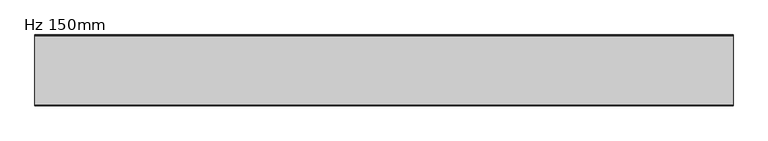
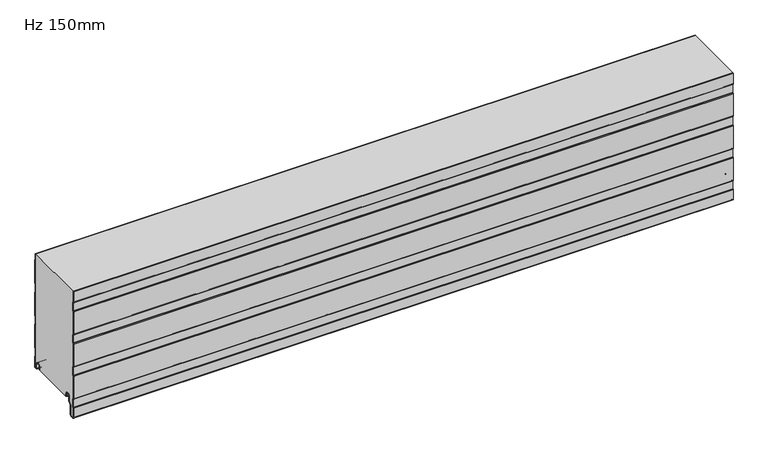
"""IFC4 building model written with IfcOpenShell, lengths in millimetres: plate geometry, KIP-MEX-KSS-1067-R19-CP-Hz-SL_SL : Hz 150mm."""

from ifc_helpers import new_model, si_unit, point, frame, frame_2d, origin, place, context, project, spatial, polyline, circle_curve, trimmed, segment, composite_curve, outline, extrude, source, transform, mapped, element, save
from ifc_brep_helpers import plane_surface, cylinder_surface, revolved_surface, advanced_brep


def hz_150mm_8d4023c2(model_context):
    return source(origin(), model_context, "Body", "SolidModel", [
        advanced_brep(
        [(-740.0, -17.0015159, 2.0313088), (-740.0, -18.0015191, 1.0313116), (-740.0, -19.0015105, 2.0313088), (-740.0, -19.0015105, 6.0315125), (-740.0, -18.0015159, 6.0315125), (-740.0, -18.0015159, 8.7237223), (-740.0, -14.7015202, 12.023718), (-740.0, -10.301529, 12.023718), (-740.0, -7.0015335, 8.7237225), (-740.0, -7.0015335, -1.6962564), (-740.0, -5.2315393, -3.4662506), (-740.0, -0.9999916, -3.4662506), (-740.0, -0.9999916, 21.034026), (-740.0, -2.2002307, 22.4196686), (-740.0, -2.2002307, 41.7948349), (-740.0, -1.0, 43.1804679), (-740.0, -1.0, 97.2338833), (-740.0, -2.2002307, 98.6195162), (-740.0, -2.2002307, 117.9946825), (-740.0, -1.0, 119.3803155), (-740.0, -1.0, 173.4337309), (-740.0, -2.2002307, 174.8193638), (-740.0, -2.2002307, 194.1945301), (-740.0, -1.0, 195.5801631), (-740.0, -1.0, 249.6335785), (-740.0, -2.2002307, 251.0192114), (-740.0, -2.2002307, 266.0), (-740.0, -1.2002307, 266.0), (-740.0, -1.2002307, 251.3920919), (-740.0, -0.3417885, 250.4010442), (-740.0, 0.0, 249.4844273), (-740.0, 0.0, 195.7293142), (-740.0, -0.3417885, 194.8126973), (-740.0, -1.2002307, 193.8216497), (-740.0, -1.2002307, 175.1922443), (-740.0, -0.3417885, 174.2011966), (-740.0, 0.0, 173.2845797), (-740.0, 0.0, 119.5294666), (-740.0, -0.3417885, 118.6128497), (-740.0, -1.2002307, 117.6218021), (-740.0, -1.2002307, 98.9923967), (-740.0, -0.3417885, 98.001349), (-740.0, 0.0, 97.0847321), (-740.0, 0.0, 43.329619), (-740.0, -0.3417885, 42.4130021), (-740.0, -1.2002307, 41.4219545), (-740.0, -1.2002307, 22.7925491), (-740.0, -0.3417885, 21.8015014), (-740.0, 0.0, 20.8847931), (-740.0, 8.4e-06, -3.0662545), (-740.0, -1.3999878, -4.4662506), (-740.0, -5.2315393, -4.4662506), (-740.0, -8.0015335, -1.6962564), (-740.0, -8.0015335, 8.7237225), (-740.0, -10.301529, 11.023718), (-740.0, -14.7015202, 11.023718), (-740.0, -17.0015159, 8.7237223), (740.0, -17.0015159, 2.0313088), (740.0, -17.0015159, 8.7237223), (740.0, -14.7015202, 11.023718), (740.0, -10.301529, 11.023718), (740.0, -8.0015335, 8.7237225), (740.0, -8.0015335, -1.6962564), (740.0, -5.2315393, -4.4662506), (740.0, -1.3999878, -4.4662506), (740.0, 8.4e-06, -3.0662545), (740.0, 8.4e-06, 20.8848845), (740.0, -0.3417885, 21.8015014), (740.0, -1.2002307, 22.7925491), (740.0, -1.2002307, 41.4219545), (740.0, -0.3417885, 42.4130021), (740.0, 0.0, 43.329619), (740.0, 0.0, 97.0847321), (740.0, -0.3417885, 98.001349), (740.0, -1.2002307, 98.9923967), (740.0, -1.2002307, 117.6218021), (740.0, -0.3417885, 118.6128497), (740.0, 0.0, 119.5294666), (740.0, 0.0, 173.2845797), (740.0, -0.3417885, 174.2011966), (740.0, -1.2002307, 175.1922443), (740.0, -1.2002307, 193.8216497), (740.0, -0.3417885, 194.8126973), (740.0, 0.0, 195.7293142), (740.0, 0.0, 249.4844273), (740.0, -0.3417885, 250.4010442), (740.0, -1.2002307, 251.3920919), (740.0, -1.2002307, 266.0), (740.0, -2.2002307, 266.0), (740.0, -2.2002307, 251.0192114), (740.0, -1.0, 249.6335785), (740.0, -1.0, 195.5801631), (740.0, -2.2002307, 194.1945301), (740.0, -2.2002307, 174.8193638), (740.0, -1.0, 173.4337309), (740.0, -1.0, 119.3803155), (740.0, -2.2002307, 117.9946825), (740.0, -2.2002307, 98.6195162), (740.0, -1.0, 97.2338833), (740.0, -1.0, 43.1804679), (740.0, -2.2002307, 41.7948349), (740.0, -2.2002307, 22.4196686), (740.0, -0.9999916, 21.034026), (740.0, -0.9999916, -3.4662506), (740.0, -5.2315393, -3.4662506), (740.0, -7.0015335, -1.6962564), (740.0, -7.0015335, 8.7237225), (740.0, -10.301529, 12.023718), (740.0, -14.7015202, 12.023718), (740.0, -18.0015159, 8.7237223), (740.0, -18.0015159, 6.0315125), (740.0, -19.0015105, 6.0315125), (740.0, -19.0015105, 2.0313088), (740.0, -18.0015192, 1.0313116)],
        [
            (0, 1, circle_curve(frame((-740.0, -18.0015132, 2.0313088), z_axis=(-1.0, 0.0, 0.0), x_axis=(0.0, 0.0, 1.0)), 0.9999973)),
            (1, 2, circle_curve(frame((-740.0, -18.0015133, 2.0313088), z_axis=(-1.0, 0.0, 0.0), x_axis=(0.0, 0.0, 1.0)), 0.9999972)),
            (2, 3),
            (3, 4),
            (4, 5),
            (5, 6, circle_curve(frame((-740.0, -14.7015202, 8.7237223), z_axis=(-1.0, 0.0, 0.0), x_axis=(0.0, 0.0, 1.0)), 3.2999957)),
            (6, 7),
            (7, 8, circle_curve(frame((-740.0, -10.301529, 8.7237225), z_axis=(-1.0, 0.0, 0.0), x_axis=(0.0, 0.0, 1.0)), 3.2999955)),
            (8, 9),
            (9, 10, circle_curve(frame((-740.0, -5.2315393, -1.6962564), z_axis=(1.0, 0.0, 0.0), x_axis=(0.0, 0.0, 1.0)), 1.7699942)),
            (10, 11),
            (11, 12),
            (12, 13),
            (13, 14),
            (14, 15),
            (15, 16),
            (16, 17),
            (17, 18),
            (18, 19),
            (19, 20),
            (20, 21),
            (21, 22),
            (22, 23),
            (23, 24),
            (24, 25),
            (25, 26),
            (26, 27),
            (27, 28),
            (28, 29),
            (29, 30, circle_curve(frame((-740.0, -1.3999972, 249.4844273), z_axis=(-1.0, 0.0, 0.0), x_axis=(0.0, 0.0, 1.0)), 1.3999972)),
            (30, 31),
            (31, 32, circle_curve(frame((-740.0, -1.3999972, 195.7293142), z_axis=(-1.0, 0.0, 0.0), x_axis=(0.0, 0.0, 1.0)), 1.3999972)),
            (32, 33),
            (33, 34),
            (34, 35),
            (35, 36, circle_curve(frame((-740.0, -1.3999972, 173.2845797), z_axis=(-1.0, 0.0, 0.0), x_axis=(0.0, 0.0, 1.0)), 1.3999972)),
            (36, 37),
            (37, 38, circle_curve(frame((-740.0, -1.3999972, 119.5294666), z_axis=(-1.0, 0.0, 0.0), x_axis=(0.0, 0.0, 1.0)), 1.3999972)),
            (38, 39),
            (39, 40),
            (40, 41),
            (41, 42, circle_curve(frame((-740.0, -1.3999972, 97.0847321), z_axis=(-1.0, 0.0, 0.0), x_axis=(0.0, 0.0, 1.0)), 1.3999972)),
            (42, 43),
            (43, 44, circle_curve(frame((-740.0, -1.3999972, 43.329619), z_axis=(-1.0, 0.0, 0.0), x_axis=(0.0, 0.0, 1.0)), 1.3999972)),
            (44, 45),
            (45, 46),
            (46, 47),
            (47, 48, circle_curve(frame((-740.0, -1.3999972, 20.8848845), z_axis=(-1.0, 0.0, 0.0), x_axis=(0.0, 0.0, 1.0)), 1.3999972)),
            (48, 49),
            (49, 50, circle_curve(frame((-740.0, -1.3999878, -3.0662545), z_axis=(-1.0, 0.0, 0.0), x_axis=(0.0, 0.0, 1.0)), 1.3999962)),
            (50, 51),
            (51, 52, circle_curve(frame((-740.0, -5.2315393, -1.6962564), z_axis=(-1.0, 0.0, 0.0), x_axis=(0.0, 0.0, 1.0)), 2.7699942)),
            (52, 53),
            (53, 54, circle_curve(frame((-740.0, -10.301529, 8.7237225), z_axis=(1.0, 0.0, 0.0), x_axis=(0.0, 0.0, 1.0)), 2.2999955)),
            (54, 55),
            (55, 56, circle_curve(frame((-740.0, -14.7015202, 8.7237223), z_axis=(1.0, 0.0, 0.0), x_axis=(0.0, 0.0, 1.0)), 2.2999957)),
            (56, 0),
            (57, 58),
            (58, 59, circle_curve(frame((740.0, -14.7015202, 8.7237223), z_axis=(-1.0, 0.0, 0.0), x_axis=(0.0, 0.0, 1.0)), 2.2999957)),
            (59, 60),
            (60, 61, circle_curve(frame((740.0, -10.301529, 8.7237225), z_axis=(-1.0, 0.0, 0.0), x_axis=(0.0, 0.0, 1.0)), 2.2999955)),
            (61, 62),
            (62, 63, circle_curve(frame((740.0, -5.2315393, -1.6962564), z_axis=(1.0, 0.0, 0.0), x_axis=(0.0, 0.0, 1.0)), 2.7699942)),
            (63, 64),
            (64, 65, circle_curve(frame((740.0, -1.3999878, -3.0662545), z_axis=(1.0, 0.0, 0.0), x_axis=(0.0, 0.0, 1.0)), 1.3999962)),
            (65, 66),
            (66, 67, circle_curve(frame((740.0, -1.3999972, 20.8848845), z_axis=(1.0, 0.0, 0.0), x_axis=(0.0, 0.0, 1.0)), 1.3999972)),
            (67, 68),
            (68, 69),
            (69, 70),
            (70, 71, circle_curve(frame((740.0, -1.3999972, 43.329619), z_axis=(1.0, 0.0, 0.0), x_axis=(0.0, 0.0, 1.0)), 1.3999972)),
            (71, 72),
            (72, 73, circle_curve(frame((740.0, -1.3999972, 97.0847321), z_axis=(1.0, 0.0, 0.0), x_axis=(0.0, 0.0, 1.0)), 1.3999972)),
            (73, 74),
            (74, 75),
            (75, 76),
            (76, 77, circle_curve(frame((740.0, -1.3999972, 119.5294666), z_axis=(1.0, 0.0, 0.0), x_axis=(0.0, 0.0, 1.0)), 1.3999972)),
            (77, 78),
            (78, 79, circle_curve(frame((740.0, -1.3999972, 173.2845797), z_axis=(1.0, 0.0, 0.0), x_axis=(0.0, 0.0, 1.0)), 1.3999972)),
            (79, 80),
            (80, 81),
            (81, 82),
            (82, 83, circle_curve(frame((740.0, -1.3999972, 195.7293142), z_axis=(1.0, 0.0, 0.0), x_axis=(0.0, 0.0, 1.0)), 1.3999972)),
            (83, 84),
            (84, 85, circle_curve(frame((740.0, -1.3999972, 249.4844273), z_axis=(1.0, 0.0, 0.0), x_axis=(0.0, 0.0, 1.0)), 1.3999972)),
            (85, 86),
            (86, 87),
            (87, 88),
            (88, 89),
            (89, 90),
            (90, 91),
            (91, 92),
            (92, 93),
            (93, 94),
            (94, 95),
            (95, 96),
            (96, 97),
            (97, 98),
            (98, 99),
            (99, 100),
            (100, 101),
            (101, 102),
            (102, 103),
            (103, 104),
            (104, 105, circle_curve(frame((740.0, -5.2315393, -1.6962564), z_axis=(-1.0, 0.0, 0.0), x_axis=(0.0, 0.0, 1.0)), 1.7699942)),
            (105, 106),
            (106, 107, circle_curve(frame((740.0, -10.301529, 8.7237225), z_axis=(1.0, 0.0, 0.0), x_axis=(0.0, 0.0, 1.0)), 3.2999955)),
            (107, 108),
            (108, 109, circle_curve(frame((740.0, -14.7015202, 8.7237223), z_axis=(1.0, 0.0, 0.0), x_axis=(0.0, 0.0, 1.0)), 3.2999957)),
            (109, 110),
            (110, 111),
            (111, 112),
            (112, 113, circle_curve(frame((740.0, -18.0015133, 2.0313088), z_axis=(1.0, 0.0, 0.0), x_axis=(0.0, 0.0, 1.0)), 0.9999972)),
            (113, 57, circle_curve(frame((740.0, -18.0015132, 2.0313088), z_axis=(1.0, 0.0, 0.0), x_axis=(0.0, 0.0, 1.0)), 0.9999973)),
            (56, 58),
            (57, 0),
            (55, 59),
            (54, 60),
            (53, 61),
            (52, 62),
            (51, 63),
            (50, 64),
            (49, 65),
            (48, 66),
            (47, 67),
            (46, 68),
            (45, 69),
            (44, 70),
            (43, 71),
            (42, 72),
            (41, 73),
            (40, 74),
            (39, 75),
            (38, 76),
            (37, 77),
            (36, 78),
            (35, 79),
            (34, 80),
            (33, 81),
            (32, 82),
            (31, 83),
            (30, 84),
            (29, 85),
            (28, 86),
            (27, 87),
            (88, 26),
            (25, 89),
            (24, 90),
            (23, 91),
            (22, 92),
            (21, 93),
            (20, 94),
            (19, 95),
            (18, 96),
            (17, 97),
            (16, 98),
            (15, 99),
            (14, 100),
            (13, 101),
            (12, 102),
            (11, 103),
            (10, 104),
            (9, 105),
            (8, 106),
            (7, 107),
            (6, 108),
            (5, 109),
            (4, 110),
            (3, 111),
            (2, 112),
            (1, 113),
        ],
        [
            plane_surface(frame((-740.0, 0.0, 533.4), z_axis=(-1.0, 0.0, 0.0), x_axis=(0.0, 1.0, 0.0))),
            plane_surface(frame((740.0, 0.0, 533.4), z_axis=(1.0, 0.0, 0.0), x_axis=(0.0, 1.0, 0.0))),
            plane_surface(frame((-740.0, -17.0015159, 2.0313088), z_axis=(0.0, 1.0, 0.0), x_axis=(1.0, 0.0, 0.0))),
            revolved_surface(polyline([(740.0, -14.7015202, 11.023718), (-740.0, -14.7015202, 11.023718)]), (-740.0, -14.7015202, 8.7237223), (1.0, 0.0, 0.0)),
            plane_surface(frame((-740.0, -14.7015202, 11.023718), z_axis=(0.0, 0.0, -1.0), x_axis=(1.0, 0.0, 0.0))),
            revolved_surface(polyline([(740.0, -10.301529, 11.023717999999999), (-740.0, -10.301529, 11.023717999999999)]), (-740.0, -10.301529, 8.7237225), (1.0, 0.0, 0.0)),
            plane_surface(frame((-740.0, -8.0015335, 8.7237225), z_axis=(0.0, -1.0, 0.0), x_axis=(1.0, 0.0, 0.0))),
            cylinder_surface(frame((-740.0, -5.2315393, -1.6962564), z_axis=(-1.0, 0.0, 0.0), x_axis=(0.0, 0.0, 1.0)), 2.7699942),
            plane_surface(frame((-740.0, -5.2315393, -4.4662506), z_axis=(0.0, 0.0, -1.0), x_axis=(1.0, 0.0, 0.0))),
            cylinder_surface(frame((-740.0, -1.3999878, -3.0662545), z_axis=(-1.0, 0.0, 0.0), x_axis=(0.0, 0.0, 1.0)), 1.3999962),
            plane_surface(frame((-740.0, 8.4e-06, -3.0662545), z_axis=(0.0, 1.0, 0.0), x_axis=(1.0, 0.0, 0.0))),
            cylinder_surface(frame((-740.0, -1.3999972, 20.8848845), z_axis=(-1.0, 0.0, 0.0), x_axis=(0.0, 0.0, 1.0)), 1.3999972),
            plane_surface(frame((-740.0, -0.3417885, 21.8015014), z_axis=(0.0, 0.755864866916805, 0.6547276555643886), x_axis=(1.0, 0.0, 0.0))),
            plane_surface(frame((-740.0, -1.2002307, 32.1072518), z_axis=(0.0, 1.0, 0.0), x_axis=(1.0, 0.0, 0.0))),
            plane_surface(frame((-740.0, -1.2002307, 41.4219545), z_axis=(0.0, 0.755864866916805, -0.6547276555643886), x_axis=(1.0, 0.0, 0.0))),
            cylinder_surface(frame((-740.0, -1.3999972, 43.329619), z_axis=(-1.0, 0.0, 0.0), x_axis=(0.0, 0.0, 1.0)), 1.3999972),
            plane_surface(frame((-740.0, 0.0, 43.329619), z_axis=(0.0, 1.0, 0.0), x_axis=(1.0, 0.0, 0.0))),
            cylinder_surface(frame((-740.0, -1.3999972, 97.0847321), z_axis=(-1.0, 0.0, 0.0), x_axis=(0.0, 0.0, 1.0)), 1.3999972),
            plane_surface(frame((-740.0, -0.3417885, 98.001349), z_axis=(0.0, 0.755864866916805, 0.6547276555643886), x_axis=(1.0, 0.0, 0.0))),
            plane_surface(frame((-740.0, -1.2002307, 108.3070994), z_axis=(0.0, 1.0, 0.0), x_axis=(1.0, 0.0, 0.0))),
            plane_surface(frame((-740.0, -1.2002307, 117.6218021), z_axis=(0.0, 0.755864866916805, -0.6547276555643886), x_axis=(1.0, 0.0, 0.0))),
            cylinder_surface(frame((-740.0, -1.3999972, 119.5294666), z_axis=(-1.0, 0.0, 0.0), x_axis=(0.0, 0.0, 1.0)), 1.3999972),
            plane_surface(frame((-740.0, 0.0, 119.5294666), z_axis=(0.0, 1.0, 0.0), x_axis=(1.0, 0.0, 0.0))),
            cylinder_surface(frame((-740.0, -1.3999972, 173.2845797), z_axis=(-1.0, 0.0, 0.0), x_axis=(0.0, 0.0, 1.0)), 1.3999972),
            plane_surface(frame((-740.0, -0.3417885, 174.2011966), z_axis=(0.0, 0.755864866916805, 0.6547276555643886), x_axis=(1.0, 0.0, 0.0))),
            plane_surface(frame((-740.0, -1.2002307, 184.506947), z_axis=(0.0, 1.0, 0.0), x_axis=(1.0, 0.0, 0.0))),
            plane_surface(frame((-740.0, -1.2002307, 193.8216497), z_axis=(0.0, 0.755864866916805, -0.6547276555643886), x_axis=(1.0, 0.0, 0.0))),
            cylinder_surface(frame((-740.0, -1.3999972, 195.7293142), z_axis=(-1.0, 0.0, 0.0), x_axis=(0.0, 0.0, 1.0)), 1.3999972),
            plane_surface(frame((-740.0, 0.0, 195.7293142), z_axis=(0.0, 1.0, 0.0), x_axis=(1.0, 0.0, 0.0))),
            cylinder_surface(frame((-740.0, -1.3999972, 249.4844273), z_axis=(-1.0, 0.0, 0.0), x_axis=(0.0, 0.0, 1.0)), 1.3999972),
            plane_surface(frame((-740.0, -0.3417885, 250.4010442), z_axis=(0.0, 0.755864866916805, 0.6547276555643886), x_axis=(1.0, 0.0, 0.0))),
            plane_surface(frame((-740.0, -1.2002307, 260.7067946), z_axis=(0.0, 1.0, 0.0), x_axis=(1.0, 0.0, 0.0))),
            plane_surface(frame((-740.0, -2.2002307, 270.3943777), z_axis=(0.0, -1.0, 0.0), x_axis=(1.0, 0.0, 0.0))),
            plane_surface(frame((-740.0, -2.2002307, 251.0192114), z_axis=(0.0, -0.755864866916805, -0.6547276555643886), x_axis=(1.0, 0.0, 0.0))),
            plane_surface(frame((-740.0, -1.0, 249.6335785), z_axis=(0.0, -1.0, 0.0), x_axis=(1.0, 0.0, 0.0))),
            plane_surface(frame((-740.0, -1.0, 195.5801631), z_axis=(0.0, -0.755864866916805, 0.6547276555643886), x_axis=(1.0, 0.0, 0.0))),
            plane_surface(frame((-740.0, -2.2002307, 194.1945301), z_axis=(0.0, -1.0, 0.0), x_axis=(1.0, 0.0, 0.0))),
            plane_surface(frame((-740.0, -2.2002307, 174.8193638), z_axis=(0.0, -0.755864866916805, -0.6547276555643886), x_axis=(1.0, 0.0, 0.0))),
            plane_surface(frame((-740.0, -1.0, 173.4337309), z_axis=(0.0, -1.0, 0.0), x_axis=(1.0, 0.0, 0.0))),
            plane_surface(frame((-740.0, -1.0, 119.3803155), z_axis=(0.0, -0.755864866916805, 0.6547276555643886), x_axis=(1.0, 0.0, 0.0))),
            plane_surface(frame((-740.0, -2.2002307, 117.9946825), z_axis=(0.0, -1.0, 0.0), x_axis=(1.0, 0.0, 0.0))),
            plane_surface(frame((-740.0, -2.2002307, 98.6195162), z_axis=(0.0, -0.755864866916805, -0.6547276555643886), x_axis=(1.0, 0.0, 0.0))),
            plane_surface(frame((-740.0, -1.0, 97.2338833), z_axis=(0.0, -1.0, 0.0), x_axis=(1.0, 0.0, 0.0))),
            plane_surface(frame((-740.0, -1.0, 43.1804679), z_axis=(0.0, -0.755864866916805, 0.6547276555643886), x_axis=(1.0, 0.0, 0.0))),
            plane_surface(frame((-740.0, -2.2002307, 41.7948349), z_axis=(0.0, -1.0, 0.0), x_axis=(1.0, 0.0, 0.0))),
            plane_surface(frame((-740.0, -2.2002307, 22.4196686), z_axis=(0.0, -0.755864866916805, -0.6547276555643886), x_axis=(1.0, 0.0, 0.0))),
            plane_surface(frame((-740.0, -0.9999916, 21.034026), z_axis=(0.0, -1.0, 0.0), x_axis=(1.0, 0.0, 0.0))),
            plane_surface(frame((-740.0, -0.9999916, -3.4662506), z_axis=(0.0, 0.0, 1.0), x_axis=(1.0, 0.0, 0.0))),
            revolved_surface(polyline([(740.0, -5.2315393, 0.07373779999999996), (-740.0, -5.2315393, 0.07373779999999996)]), (-740.0, -5.2315393, -1.6962564), (1.0, 0.0, 0.0)),
            plane_surface(frame((-740.0, -7.0015335, -1.6962564), z_axis=(0.0, 1.0, 0.0), x_axis=(1.0, 0.0, 0.0))),
            cylinder_surface(frame((-740.0, -10.301529, 8.7237225), z_axis=(-1.0, 0.0, 0.0), x_axis=(0.0, 0.0, 1.0)), 3.2999955),
            plane_surface(frame((-740.0, -10.301529, 12.023718), z_axis=(0.0, 0.0, 1.0), x_axis=(1.0, 0.0, 0.0))),
            cylinder_surface(frame((-740.0, -14.7015202, 8.7237223), z_axis=(-1.0, 0.0, 0.0), x_axis=(0.0, 0.0, 1.0)), 3.2999957),
            plane_surface(frame((-740.0, -18.0015159, 8.7237223), z_axis=(0.0, -1.0, 0.0), x_axis=(1.0, 0.0, 0.0))),
            plane_surface(frame((-740.0, -18.0015159, 6.0315125), z_axis=(0.0, 0.0, 1.0), x_axis=(1.0, 0.0, 0.0))),
            plane_surface(frame((-740.0, -19.0015105, 6.0315125), z_axis=(0.0, -1.0, 0.0), x_axis=(1.0, 0.0, 0.0))),
            cylinder_surface(frame((-740.0, -18.0015133, 2.0313088), z_axis=(-1.0, 0.0, 0.0), x_axis=(0.0, 0.0, 1.0)), 0.9999972),
            cylinder_surface(frame((-740.0, -18.0015132, 2.0313088), z_axis=(-1.0, 0.0, 0.0), x_axis=(0.0, 0.0, 1.0)), 0.9999973),
            plane_surface(frame((740.0, 10.0, 266.0), z_axis=(0.0, 0.0, 1.0), x_axis=(-1.0, 0.0, 0.0))),
        ],
        [
            (0, [[1, 2, 3, 4, 5, 6, 7, 8, 9, 10, 11, 12, 13, 14, 15, 16, 17, 18, 19, 20, 21, 22, 23, 24, 25, 26, 27, 28, 29, 30, 31, 32, 33, 34, 35, 36, 37, 38, 39, 40, 41, 42, 43, 44, 45, 46, 47, 48, 49, 50, 51, 52, 53, 54, 55, 56, 57]]),
            (1, [[58, 59, 60, 61, 62, 63, 64, 65, 66, 67, 68, 69, 70, 71, 72, 73, 74, 75, 76, 77, 78, 79, 80, 81, 82, 83, 84, 85, 86, 87, 88, 89, 90, 91, 92, 93, 94, 95, 96, 97, 98, 99, 100, 101, 102, 103, 104, 105, 106, 107, 108, 109, 110, 111, 112, 113, 114]]),
            (2, [[115, -58, 116, -57]]),
            (3, [[117, -59, -115, -56]]),
            (4, [[118, -60, -117, -55]]),
            (5, [[119, -61, -118, -54]]),
            (6, [[120, -62, -119, -53]]),
            (7, [[121, -63, -120, -52]]),
            (8, [[122, -64, -121, -51]]),
            (9, [[123, -65, -122, -50]]),
            (10, [[124, -66, -123, -49]]),
            (11, [[125, -67, -124, -48]]),
            (12, [[126, -68, -125, -47]]),
            (13, [[127, -69, -126, -46]]),
            (14, [[128, -70, -127, -45]]),
            (15, [[129, -71, -128, -44]]),
            (16, [[130, -72, -129, -43]]),
            (17, [[131, -73, -130, -42]]),
            (18, [[132, -74, -131, -41]]),
            (19, [[133, -75, -132, -40]]),
            (20, [[134, -76, -133, -39]]),
            (21, [[135, -77, -134, -38]]),
            (22, [[136, -78, -135, -37]]),
            (23, [[137, -79, -136, -36]]),
            (24, [[138, -80, -137, -35]]),
            (25, [[139, -81, -138, -34]]),
            (26, [[140, -82, -139, -33]]),
            (27, [[141, -83, -140, -32]]),
            (28, [[142, -84, -141, -31]]),
            (29, [[143, -85, -142, -30]]),
            (30, [[144, -86, -143, -29]]),
            (31, [[-28, 145, -87, -144]]),
            (32, [[-89, 146, -26, 147]]),
            (33, [[148, -90, -147, -25]]),
            (34, [[149, -91, -148, -24]]),
            (35, [[150, -92, -149, -23]]),
            (36, [[151, -93, -150, -22]]),
            (37, [[152, -94, -151, -21]]),
            (38, [[153, -95, -152, -20]]),
            (39, [[154, -96, -153, -19]]),
            (40, [[155, -97, -154, -18]]),
            (41, [[156, -98, -155, -17]]),
            (42, [[157, -99, -156, -16]]),
            (43, [[158, -100, -157, -15]]),
            (44, [[159, -101, -158, -14]]),
            (45, [[160, -102, -159, -13]]),
            (46, [[161, -103, -160, -12]]),
            (47, [[162, -104, -161, -11]]),
            (48, [[163, -105, -162, -10]]),
            (49, [[164, -106, -163, -9]]),
            (50, [[165, -107, -164, -8]]),
            (51, [[166, -108, -165, -7]]),
            (52, [[167, -109, -166, -6]]),
            (53, [[168, -110, -167, -5]]),
            (54, [[169, -111, -168, -4]]),
            (55, [[170, -112, -169, -3]]),
            (56, [[171, -113, -170, -2]]),
            (57, [[-116, -114, -171, -1]]),
            (58, [[-146, -88, -145, -27]]),
        ],
    ),
        extrude(outline(composite_curve([segment(trimmed(circle_curve(frame_2d((-148.6007733, -10.6415934)), 1.3998661), [point((-150.0006394, -10.6415934))], [point((-149.5333971, -9.5976403))], False, "CARTESIAN"), True, "CONTINUOUS"), segment(polyline([(-149.5333971, -9.5976403), (-148.8006709, -8.8649141), (-148.8006709, 10.0260713), (-149.5336365, 10.7590369)]), True, "CONTINUOUS"), segment(trimmed(circle_curve(frame_2d((-148.6009253, 11.8030877)), 1.3999972), [point((-149.5336365, 10.7590369))], [point((-150.0009016, 11.810741))], False, "CARTESIAN"), True, "CONTINUOUS"), segment(polyline([(-150.0009016, 11.810741), (-150.0009016, 65.5582542)]), True, "CONTINUOUS"), segment(trimmed(circle_curve(frame_2d((-148.6009044, 65.5582542)), 1.3999972), [point((-150.0009016, 65.5582542))], [point((-149.5336156, 66.602305))], False, "CARTESIAN"), True, "CONTINUOUS"), segment(polyline([(-149.5336156, 66.602305), (-148.8006709, 67.3352497), (-148.8006709, 86.2259189), (-149.5336365, 86.9588845)]), True, "CONTINUOUS"), segment(trimmed(circle_curve(frame_2d((-148.6009253, 88.0029353)), 1.3999972), [point((-149.5336365, 86.9588845))], [point((-150.0009016, 88.0105886))], False, "CARTESIAN"), True, "CONTINUOUS"), segment(polyline([(-150.0009016, 88.0105886), (-150.0009016, 141.7581018)]), True, "CONTINUOUS"), segment(trimmed(circle_curve(frame_2d((-148.6009044, 141.7581018)), 1.3999972), [point((-150.0009016, 141.7581018))], [point((-149.5336156, 142.8021526))], False, "CARTESIAN"), True, "CONTINUOUS"), segment(polyline([(-149.5336156, 142.8021526), (-148.8006709, 143.5350973), (-148.8006709, 162.4257665), (-149.5336365, 163.1587321)]), True, "CONTINUOUS"), segment(trimmed(circle_curve(frame_2d((-148.6009253, 164.2027829)), 1.3999972), [point((-149.5336365, 163.1587321))], [point((-150.0009016, 164.2104362))], False, "CARTESIAN"), True, "CONTINUOUS"), segment(polyline([(-150.0009016, 164.2104362), (-150.0009016, 217.9579494)]), True, "CONTINUOUS"), segment(trimmed(circle_curve(frame_2d((-148.6009044, 217.9579494)), 1.3999972), [point((-150.0009016, 217.9579494))], [point((-149.5336156, 219.0020002))], False, "CARTESIAN"), True, "CONTINUOUS"), segment(polyline([(-149.5336156, 219.0020002), (-148.8006709, 219.7349449), (-148.8006709, 238.6256141), (-149.5336365, 239.3585797)]), True, "CONTINUOUS"), segment(trimmed(circle_curve(frame_2d((-148.6009253, 240.4026305)), 1.3999972), [point((-149.5336365, 239.3585797))], [point((-150.0009016, 240.4102838))], False, "CARTESIAN"), True, "CONTINUOUS"), segment(polyline([(-150.0009016, 240.4102838), (-150.0009016, 266.0), (-149.0009016, 266.0), (-149.0009016, 240.2405326), (-147.8006709, 239.0403019), (-147.8006709, 219.3208894), (-149.0009016, 218.1206587), (-149.0009016, 164.0405269), (-147.8006709, 162.8402962), (-147.8006709, 143.1208837), (-149.0009016, 141.920653), (-149.0009016, 87.8405213), (-147.8006709, 86.6402905), (-147.8006709, 66.920878), (-149.0009016, 65.7206473), (-149.0009016, 11.6405156), (-147.8006709, 10.4402849), (-147.8006709, -9.2791277), (-149.0006394, -10.4790962), (-149.0006394, -32.4521176)]), True, "CONTINUOUS"), segment(trimmed(circle_curve(frame_2d((-146.4304001, -32.4521176)), 2.5702393), [point((-149.0006394, -32.4521176))], [point((-146.2063145, -35.0125699))], True, "CARTESIAN"), True, "CONTINUOUS"), segment(polyline([(-146.2063145, -35.0125699), (-141.2244936, -34.5765709)]), True, "CONTINUOUS"), segment(trimmed(circle_curve(frame_2d((-141.7058842, -31.9198392)), 2.6999926), [point((-141.2244936, -34.5765709))], [point((-139.0058916, -31.9198392))], True, "CARTESIAN"), True, "CONTINUOUS"), segment(polyline([(-139.0058916, -31.9198392), (-139.0058916, -9.8247096), (-133.5038205, -4.3226385)]), True, "CONTINUOUS"), segment(trimmed(circle_curve(frame_2d((-134.7058982, -3.1205608)), 1.6999946), [point((-133.5038205, -4.3226385))], [point((-133.0059036, -3.1205608))], True, "CARTESIAN"), True, "CONTINUOUS"), segment(polyline([(-133.0059036, -3.1205608), (-133.0059036, 8.6903283)]), True, "CONTINUOUS"), segment(trimmed(circle_curve(frame_2d((-129.6559083, 8.6903283)), 3.3499953), [point((-133.0059036, 8.6903283))], [point((-129.6559083, 12.0403236))], False, "CARTESIAN"), True, "CONTINUOUS"), segment(polyline([(-129.6559083, 12.0403236), (-125.2559171, 12.0403236)]), True, "CONTINUOUS"), segment(trimmed(circle_curve(frame_2d((-125.2559171, 8.6903283)), 3.3499953), [point((-125.2559171, 12.0403236))], [point((-121.9059218, 8.6903283))], False, "CARTESIAN"), True, "CONTINUOUS"), segment(polyline([(-121.9059218, 8.6903283), (-121.9059218, 5.9912173), (-120.5074429, 5.9912173), (-120.5074429, 2.2328239)]), True, "CONTINUOUS"), segment(trimmed(circle_curve(frame_2d((-121.7074396, 2.2313092)), 1.1999976), [point((-120.5074429, 2.2328239))], [point((-121.6769177, 1.0316999))], False, "CARTESIAN"), True, "CONTINUOUS"), segment(trimmed(circle_curve(frame_2d((-121.7074396, 2.2313092)), 1.1999976), [point((-121.6769177, 1.0316999))], [point((-122.9059218, 2.1710221))], False, "CARTESIAN"), True, "CONTINUOUS"), segment(polyline([(-122.9059218, 2.1710221), (-122.9059218, 8.6903283)]), True, "CONTINUOUS"), segment(trimmed(circle_curve(frame_2d((-125.2559171, 8.6903283)), 2.3499953), [point((-122.9059218, 8.6903283))], [point((-125.2559171, 11.0403236))], True, "CARTESIAN"), True, "CONTINUOUS"), segment(polyline([(-125.2559171, 11.0403236), (-129.6559083, 11.0403236)]), True, "CONTINUOUS"), segment(trimmed(circle_curve(frame_2d((-129.6559083, 8.6903283)), 2.3499953), [point((-129.6559083, 11.0403236))], [point((-132.0059036, 8.6903283))], True, "CARTESIAN"), True, "CONTINUOUS"), segment(polyline([(-132.0059036, 8.6903283), (-132.0059036, -3.1205608)]), True, "CONTINUOUS"), segment(trimmed(circle_curve(frame_2d((-134.7058982, -3.1205608)), 2.6999946), [point((-132.0059036, -3.1205608))], [point((-132.7967137, -5.0297453))], False, "CARTESIAN"), True, "CONTINUOUS"), segment(polyline([(-132.7967137, -5.0297453), (-137.6251312, -9.8581627)]), True, "CONTINUOUS"), segment(trimmed(circle_curve(frame_2d((-136.7058942, -10.7773997)), 1.2999974), [point((-137.6251312, -9.8581627))], [point((-138.0058916, -10.7773997))], True, "CARTESIAN"), True, "CONTINUOUS"), segment(polyline([(-138.0058916, -10.7773997), (-138.0058916, -31.9198392)]), True, "CONTINUOUS"), segment(trimmed(circle_curve(frame_2d((-141.7058842, -31.9198392)), 3.6999926), [point((-138.0058916, -31.9198392))], [point((-141.0950831, -35.5690675))], False, "CARTESIAN"), True, "CONTINUOUS"), segment(polyline([(-141.0950831, -35.5690675), (-146.1191297, -36.008762)]), True, "CONTINUOUS"), segment(trimmed(circle_curve(frame_2d((-146.4304001, -32.4521176)), 3.5702393), [point((-146.1191297, -36.008762))], [point((-150.0006394, -32.4521176))], False, "CARTESIAN"), True, "CONTINUOUS"), segment(polyline([(-150.0006394, -32.4521176), (-150.0006394, -10.6415934)]), True, "CONTINUOUS")], self_intersect=False)), frame((-740.0, 0.0, 0.0), z_axis=(1.0, 0.0, 0.0), x_axis=(0.0, 1.0, 0.0)), (0.0, 0.0, 1.0), 1480.0),
        extrude(outline(composite_curve([segment(trimmed(circle_curve(frame_2d((-121.7013969, 2.2313092)), 1.1999976), [point((-121.670875, 1.0316999))], [point((-120.5014003, 2.2328239))], True, "CARTESIAN"), True, "CONTINUOUS"), segment(polyline([(-120.5014003, 2.2328239), (-120.5014003, 5.9912173), (-121.8998791, 5.9912173), (-121.8998791, 8.6903283)]), True, "CONTINUOUS"), segment(trimmed(circle_curve(frame_2d((-125.2498744, 8.6903283)), 3.3499953), [point((-121.8998791, 8.6903283))], [point((-125.2498744, 12.0403236))], True, "CARTESIAN"), True, "CONTINUOUS"), segment(polyline([(-125.2498744, 12.0403236), (-129.6498656, 12.0403236)]), True, "CONTINUOUS"), segment(trimmed(circle_curve(frame_2d((-129.6498656, 8.6903283)), 3.3499953), [point((-129.6498656, 12.0403236))], [point((-132.9998609, 8.6903283))], True, "CARTESIAN"), True, "CONTINUOUS"), segment(polyline([(-132.9998609, 8.6903283), (-132.9998609, -3.1205608)]), True, "CONTINUOUS"), segment(trimmed(circle_curve(frame_2d((-134.6998555, -3.1205608)), 1.6999946), [point((-132.9998609, -3.1205608))], [point((-133.4977778, -4.3226385))], False, "CARTESIAN"), True, "CONTINUOUS"), segment(polyline([(-133.4977778, -4.3226385), (-138.9998489, -9.8247096), (-138.9998489, -31.9198392)]), True, "CONTINUOUS"), segment(trimmed(circle_curve(frame_2d((-141.6998415, -31.9198392)), 2.6999926), [point((-138.9998489, -31.9198392))], [point((-141.2184509, -34.5765709))], False, "CARTESIAN"), True, "CONTINUOUS"), segment(polyline([(-141.2184509, -34.5765709), (-146.2002718, -35.0125699)]), True, "CONTINUOUS"), segment(trimmed(circle_curve(frame_2d((-146.4243575, -32.4521176)), 2.5702393), [point((-146.2002718, -35.0125699))], [point((-148.9945967, -32.4521176))], False, "CARTESIAN"), True, "CONTINUOUS"), segment(polyline([(-148.9945967, -32.4521176), (-148.9945967, -10.4790962), (-147.7946282, -9.2791277), (-147.7946282, 10.4402849), (-148.9948589, 11.6405156), (-148.9948589, 65.7206473), (-147.7946282, 66.920878), (-147.7946282, 86.6402905), (-148.9948589, 87.8405213), (-148.9948589, 141.920653), (-147.7946282, 143.1208837), (-147.7946282, 162.8402962), (-148.9948589, 164.0405269), (-148.9948589, 218.1206587), (-147.7946282, 219.3208894), (-147.7946282, 239.0403019), (-148.9948589, 240.2405326), (-148.9948589, 266.0), (-2.2002307, 266.0), (-2.2002307, 251.0192115), (-1.0, 249.6335785), (-1.0, 195.5801631), (-2.2002307, 194.1945302), (-2.2002307, 174.8193639), (-1.0, 173.4337309), (-1.0, 119.3803155), (-2.2002307, 117.9946826), (-2.2002307, 98.6195163), (-1.0, 97.2338833), (-1.0, 43.1804679), (-2.2002307, 41.794835), (-2.2002307, 22.4196687), (-0.9999916, 21.034026), (-0.9999916, -3.4662506), (-5.2315389, -3.4662506)]), True, "CONTINUOUS"), segment(trimmed(circle_curve(frame_2d((-5.2315389, -1.6962564)), 1.7699942), [point((-5.2315389, -3.4662506))], [point((-7.0015331, -1.6962564))], False, "CARTESIAN"), True, "CONTINUOUS"), segment(polyline([(-7.0015331, -1.6962564), (-7.0015331, 8.7237222)]), True, "CONTINUOUS"), segment(trimmed(circle_curve(frame_2d((-10.301529, 8.7237222)), 3.2999959), [point((-7.0015331, 8.7237222))], [point((-10.301529, 12.023718))], True, "CARTESIAN"), True, "CONTINUOUS"), segment(polyline([(-10.301529, 12.023718), (-14.7015202, 12.023718)]), True, "CONTINUOUS"), segment(trimmed(circle_curve(frame_2d((-14.7015202, 8.7237223)), 3.2999957), [point((-14.7015202, 12.023718))], [point((-18.0015159, 8.7237223))], True, "CARTESIAN"), True, "CONTINUOUS"), segment(polyline([(-18.0015159, 8.7237223), (-18.0015159, 6.0315125), (-19.0015105, 6.0315125), (-19.0015105, 2.0313089)]), True, "CONTINUOUS"), segment(trimmed(circle_curve(frame_2d((-18.0015133, 2.0313089)), 0.9999972), [point((-19.0015105, 2.0313089))], [point((-18.0015192, 1.0313117))], True, "CARTESIAN"), True, "CONTINUOUS"), segment(polyline([(-18.0015192, 1.0313117), (-19.0328308, 0.0), (-120.6391751, 0.0), (-121.670875, 1.0316999)]), True, "CONTINUOUS")], self_intersect=False)), frame((-740.0, 0.0, 0.0), z_axis=(1.0, 0.0, 0.0), x_axis=(0.0, 1.0, 0.0)), (0.0, 0.0, 1.0), 1480.0),
    ])


if __name__ == "__main__":
    model = new_model("IFC4")
    model_context = context("Model", 3, world=origin())
    ifc_project = project(units=[si_unit("LENGTHUNIT", "METRE", prefix="MILLI")], contexts=[model_context])
    site = spatial("IfcSite", under=ifc_project)
    building = spatial("IfcBuilding", under=site)
    placement = place(None, origin())
    hz_150mm_shape = hz_150mm_8d4023c2(model_context)
    element("IfcPlate", 1, ObjectType="KIP-MEX-KSS-1067-R19-CP-Hz-SL_SL : Hz 150mm", at=placement, inside=building, context=model_context, shape_type="MappedRepresentation", body=[
        mapped(hz_150mm_shape, transform((0.0, 0.0, 0.0), x_axis=(1.0, 0.0, 0.0), y_axis=(0.0, 1.0, 0.0), z_axis=(0.0, 0.0, 1.0))),
    ])
    save(model, "model.ifc")
